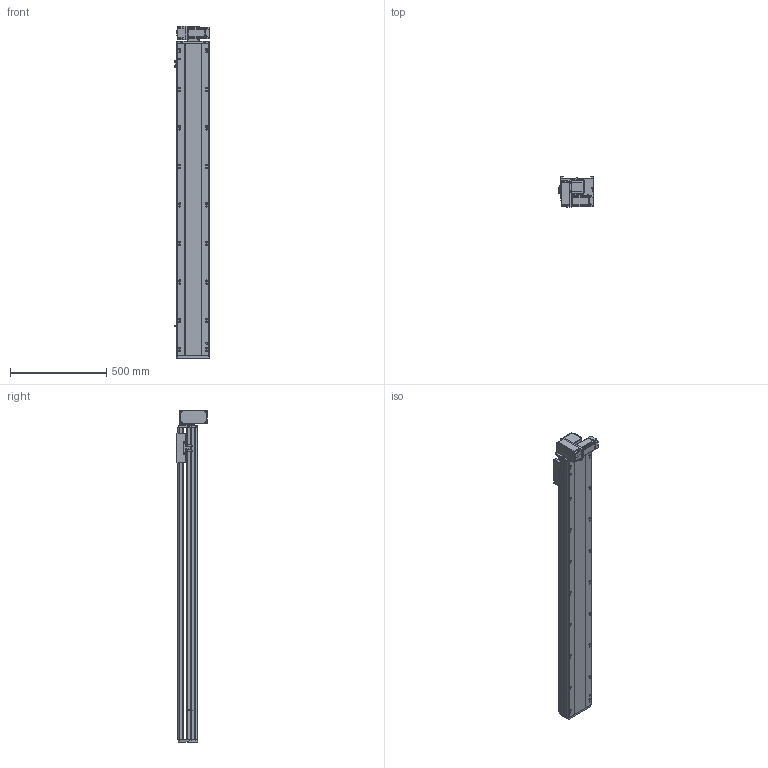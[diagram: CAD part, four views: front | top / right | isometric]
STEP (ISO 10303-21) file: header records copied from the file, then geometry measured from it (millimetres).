
FILE_DESCRIPTION (( 'STEP AP214' ), '1' );
FILE_NAME ('RTB17S-XX-1350-LM-M40-C4.STEP', '2025-12-11T06:28:34', ( '' ), ( '' ), 'SwSTEP 2.0', 'SolidWorks 2018', '' );
FILE_SCHEMA (( 'AUTOMOTIVE_DESIGN' ));
Length unit declared in the file: millimetre
Products named in the file (14): RTB17S-XX-1350-LM-M40-C4; RTB17S-L-004佪裝蹟譫蟀諉釱^RTB17S-XX-XX-LM-M40-C4; RTB17S-L-007奻裔^RTB17S-XX-XX-LM-M40-C4; RTB17S-LM-々湍釱蚾饜-400W^RTB17S-XX-XX-LM-M40-C4; RTB17S-L-001耜醱啣^RTB17S-XX-XX-LM-M40-C4; RTH13-BL-012覜茼え俋离^RTB17S-XX-XX-LM-M40-C4; RTB14-L-018P^RTB17S-LM-々湍釱蚾饜-400W_RTB17S-XX-XX-LM-M40-C4; RTB14-L-017P^RTB17S-LM-々湍釱蚾饜-400W_RTB17S-XX-XX-LM-M40-C4; OMRON EE-SX672 传感器^RTB17S-XX-XX-LM-M40-C4; RTB14-L-008-M20--萇儂啣^RTB17S-LM-々湍釱蚾饜-400W_RTB17S-XX-XX-LM-M40-C4; 400W侜督萇儂^RTB17S-XX-XX-LM-M40-C4; RTB17-R-011菁釱^RTB17S-XX-XX-LM-M40-C4; RTB14-L-005P--轴承塑胶压盖^RTB17S-LM-皮带座装配-400W_RTB17S-XX-XX-LM-M40-C4; RMP17S-L-014-T20--々湍釱^RTB17S-LM-々湍釱蚾饜-400W_RTB17S-XX-XX-LM-M40-C4
Assembly tree (16 placements, depth 3):
  RTB17S-XX-1350-LM-M40-C4
    RTB17-R-011菁釱^RTB17S-XX-XX-LM-M40-C4
    RTB17S-L-007奻裔^RTB17S-XX-XX-LM-M40-C4
    OMRON EE-SX672 传感器^RTB17S-XX-XX-LM-M40-C4  x3
    RTH13-BL-012覜茼え俋离^RTB17S-XX-XX-LM-M40-C4
    RTB17S-L-001耜醱啣^RTB17S-XX-XX-LM-M40-C4
    400W侜督萇儂^RTB17S-XX-XX-LM-M40-C4
    RTB17S-L-004佪裝蹟譫蟀諉釱^RTB17S-XX-XX-LM-M40-C4
    RTB17S-LM-々湍釱蚾饜-400W^RTB17S-XX-XX-LM-M40-C4
      RMP17S-L-014-T20--々湍釱^RTB17S-LM-々湍釱蚾饜-400W_RTB17S-XX-XX-LM-M40-C4
      RTB14-L-005P--轴承塑胶压盖^RTB17S-LM-皮带座装配-400W_RTB17S-XX-XX-LM-M40-C4
      RTB14-L-008-M20--萇儂啣^RTB17S-LM-々湍釱蚾饜-400W_RTB17S-XX-XX-LM-M40-C4
      RTB14-L-017P^RTB17S-LM-々湍釱蚾饜-400W_RTB17S-XX-XX-LM-M40-C4  x2
      RTB14-L-018P^RTB17S-LM-々湍釱蚾饜-400W_RTB17S-XX-XX-LM-M40-C4
Bounding box: 186 x 156.5 x 1722.5 mm (x, y, z)
Volume: 15228583 mm3; surface area: 1809316.8 mm2
Topology: 15 solids, 15 shells, 2237 faces, 6195 edges, 4041 vertices
Faces by surface type: plane 1072, cylinder 717, bspline 301, cone 139, torus 8
Entity records: 64169 total; most frequent: CARTESIAN_POINT 18000, ORIENTED_EDGE 9234, DIRECTION 8576, EDGE_CURVE 4617, VERTEX_POINT 3029, AXIS2_PLACEMENT_3D 2959, VECTOR 2658, LINE 2658
